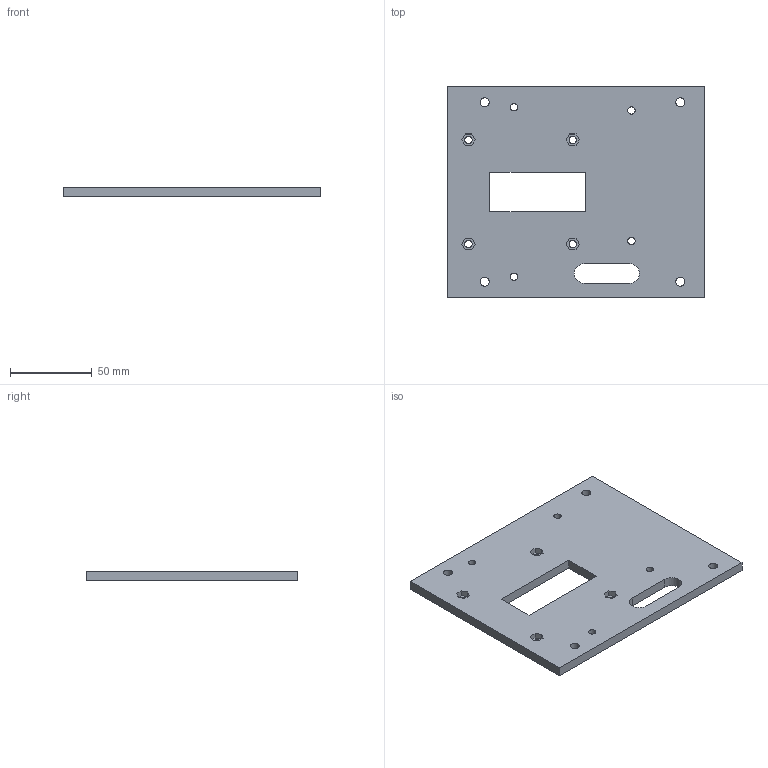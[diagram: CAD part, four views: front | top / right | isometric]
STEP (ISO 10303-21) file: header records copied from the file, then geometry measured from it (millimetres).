
FILE_DESCRIPTION(('Open CASCADE Model'),'2;1');
FILE_NAME('Open CASCADE Shape Model','2026-10-13T15:24:30',('Author'),( 'Open CASCADE'),'Open CASCADE STEP processor 8.0','build123d', 'Unknown');
FILE_SCHEMA(('AUTOMOTIVE_DESIGN { 1 0 10303 214 1 1 1 1 }'));
Length unit declared in the file: millimetre
Products named in the file (1): COMPOUND
Bounding box: 158 x 130 x 6 mm (x, y, z)
Volume: 110355.5 mm3; surface area: 43169.1 mm2
Topology: 1 solids, 1 shells, 54 faces, 144 edges, 96 vertices
Faces by surface type: plane 40, cylinder 14
Full cylindrical faces by diameter (mm): 4.5 x8, 5.5 x4
Entity records: 3554 total; most frequent: CARTESIAN_POINT 679, DIRECTION 494, LINE 304, VECTOR 304, ORIENTED_EDGE 288, PCURVE 288, DEFINITIONAL_REPRESENTATION 288, EDGE_CURVE 144
